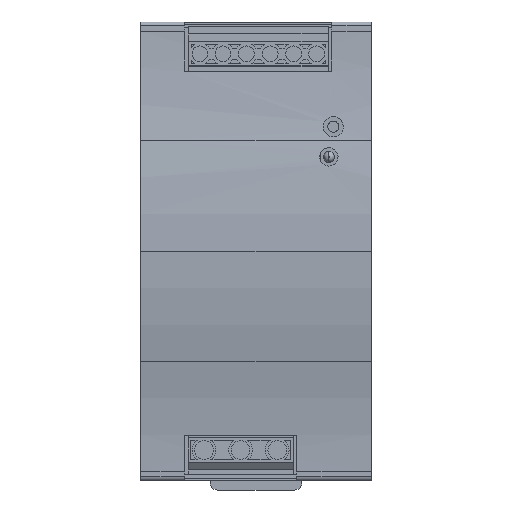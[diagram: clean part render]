
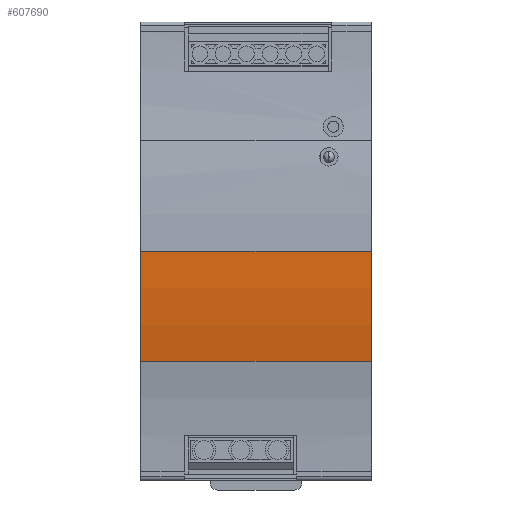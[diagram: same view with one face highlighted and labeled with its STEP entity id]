
A CAD part, left-side view. The second image highlights one B-rep face of the part: STEP entity #607690.
In plain terms, the highlighted cylindrical face has radius 150.5 mm (diameter 301 mm), a partial arc.
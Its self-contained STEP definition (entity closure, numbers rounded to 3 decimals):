
#594210=CARTESIAN_POINT('',(-12.654,13.236,
-18.11));
#594220=VERTEX_POINT('',#594210);
#594250=CARTESIAN_POINT('',(134.803,13.236,
12.));
#594260=DIRECTION('',(0.,-1.,0.));
#594270=DIRECTION('',(-1.,0.,0.));
#594280=AXIS2_PLACEMENT_3D('',#594250,#594260,#594270);
#594290=CIRCLE('',#594280,150.5);
#594300=CARTESIAN_POINT('',(-15.697,13.236,
12.));
#594310=VERTEX_POINT('',#594300);
#594320=EDGE_CURVE('',#594310,#594220,#594290,.T.);
#596220=CARTESIAN_POINT('',(-12.654,76.236,
-18.11));
#596230=VERTEX_POINT('',#596220);
#596260=CARTESIAN_POINT('',(-12.654,18.986,
-18.11));
#596270=DIRECTION('',(0.,1.,0.));
#596280=VECTOR('',#596270,1.);
#596290=LINE('',#596260,#596280);
#596300=EDGE_CURVE('',#594220,#596230,#596290,.T.);
#602990=CARTESIAN_POINT('',(134.803,18.986,
12.));
#603000=DIRECTION('',(0.,-1.,0.));
#603010=DIRECTION('',(-1.,0.,0.));
#603020=AXIS2_PLACEMENT_3D('',#602990,#603000,#603010);
#603030=CYLINDRICAL_SURFACE('',#603020,150.5);
#603050=CARTESIAN_POINT('',(-15.697,18.986,
12.));
#603060=DIRECTION('',(0.,-1.,0.));
#603070=VECTOR('',#603060,1.);
#603080=LINE('',#603050,#603070);
#603090=CARTESIAN_POINT('',(-15.697,76.236,
12.));
#603100=VERTEX_POINT('',#603090);
#603110=EDGE_CURVE('',#603100,#594310,#603080,.T.);
#603130=CARTESIAN_POINT('',(134.803,76.236,
12.));
#603140=DIRECTION('',(0.,-1.,0.));
#603150=DIRECTION('',(-1.,0.,0.));
#603160=AXIS2_PLACEMENT_3D('',#603130,#603140,#603150);
#603170=CIRCLE('',#603160,150.5);
#607620=ORIENTED_EDGE('',*,*,#594320,.F.);
#607630=ORIENTED_EDGE('',*,*,#596300,.F.);
#607640=EDGE_CURVE('',#603100,#596230,#603170,.T.);
#607650=ORIENTED_EDGE('',*,*,#607640,.T.);
#607660=ORIENTED_EDGE('',*,*,#603110,.F.);
#607670=EDGE_LOOP('',(#607660,#607650,#607630,#607620));
#607680=FACE_OUTER_BOUND('',#607670,.T.);
#607690=ADVANCED_FACE('',(#607680),#603030,.T.);
